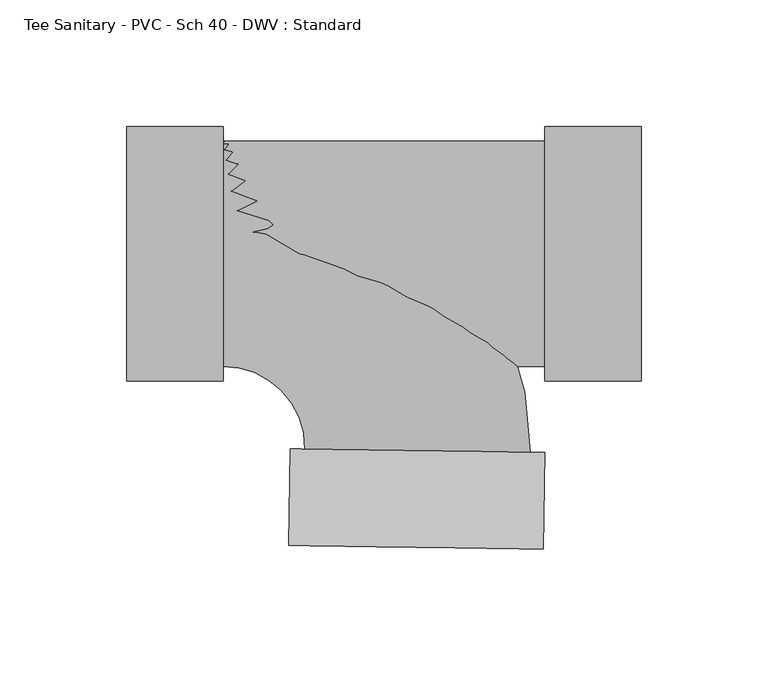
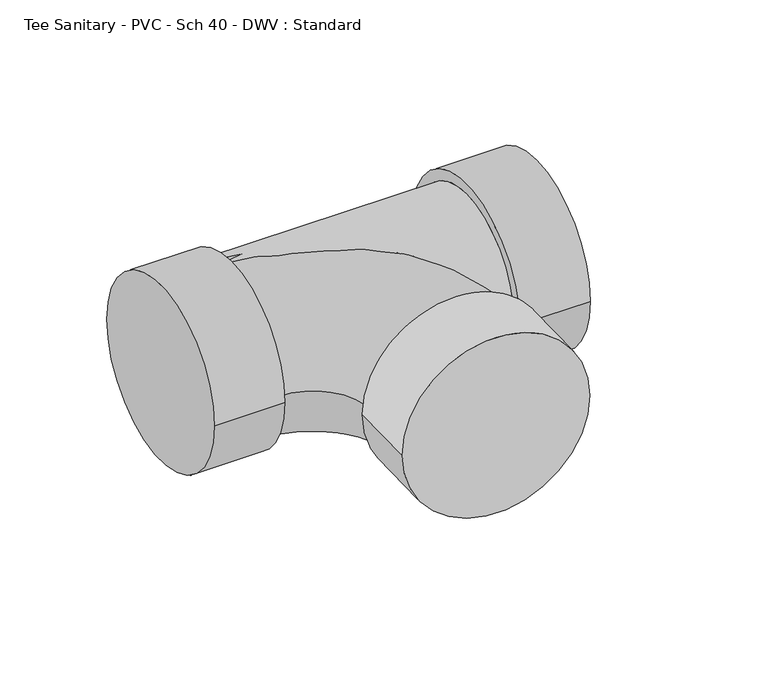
"""IFC4 building model written with IfcOpenShell, lengths in millimetres: pipe fitting geometry, Tee Sanitary - PVC - Sch 40 - DWV : Standard."""

from ifc_helpers import new_model, si_unit, point, frame, origin, place, context, project, spatial, circle_curve, ellipse_curve, trimmed, source, transform, mapped, element, save
from ifc_brep_helpers import plane_surface, cylinder_surface, revolved_surface, advanced_brep


def tee_sanitary_pvc_sch_40_dwv_standard_c52e2169(model_context):
    return source(origin(), model_context, "Body", "AdvancedBrep", [
        advanced_brep(
        [(-77.8002, -44.45, 0.0), (-77.8002, 44.45, 0.0), (-45.5428134, -77.1655737, 0.0), (43.3483451, -78.4193509, 0.0), (48.6270335, -116.5975945, 0.0), (-51.8961679, -115.1797516, 0.0), (49.1643666, -78.5013838, 0.0), (-51.3588349, -77.0835409, 0.0)],
        [
            (0, 1, circle_curve(frame((-77.8002, 0.0, 0.0), z_axis=(-1.0, 0.0, 0.0), x_axis=(0.0, 1.0, 0.0)), 44.45)),
            (1, 0, circle_curve(frame((-77.8002, 0.0, 0.0), z_axis=(-1.0, 0.0, 0.0), x_axis=(0.0, 1.0, 0.0)), 44.45)),
            (0, 2, circle_curve(frame((-77.8002, -76.7105951, 0.0), z_axis=(0.0, 0.0, -1.0), x_axis=(0.0, 1.0, 0.0)), 32.2605951)),
            (2, 3, circle_curve(frame((-1.0972341, -77.7924623, 0.0), z_axis=(0.014103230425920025, 0.9999005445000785, 0.0), x_axis=(0.9999005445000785, -0.014103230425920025, 0.0)), 44.45)),
            (3, 1, circle_curve(frame((-77.8002, -76.7105951, 0.0), z_axis=(0.0, 0.0, 1.0), x_axis=(0.0, 1.0, 0.0)), 121.1605951)),
            (3, 2, circle_curve(frame((-1.0972341, -77.7924623, 0.0), z_axis=(0.014103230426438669, 0.9999005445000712, 0.0), x_axis=(0.9999005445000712, -0.014103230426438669, 0.0)), 44.45)),
            (4, 5, circle_curve(frame((-1.6345672, -115.8886731, 0.0), z_axis=(-0.014103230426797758, -0.9999005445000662, 0.0), x_axis=(-0.9999005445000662, 0.014103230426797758, 0.0)), 50.2666)),
            (5, 4, circle_curve(frame((-1.6345672, -115.8886731, 0.0), z_axis=(-0.014103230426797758, -0.9999005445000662, 0.0), x_axis=(-0.9999005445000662, 0.014103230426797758, 0.0)), 50.2666)),
            (6, 7, circle_curve(frame((-1.0972341, -77.7924623, 0.0), z_axis=(0.014103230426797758, 0.9999005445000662, 0.0), x_axis=(-0.9999005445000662, 0.014103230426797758, 0.0)), 50.2666)),
            (7, 6, circle_curve(frame((-1.0972341, -77.7924623, 0.0), z_axis=(0.014103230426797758, 0.9999005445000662, 0.0), x_axis=(-0.9999005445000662, 0.014103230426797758, 0.0)), 50.2666)),
            (4, 6),
            (7, 5),
        ],
        [
            plane_surface(frame((-77.8002, 0.0, 0.0), z_axis=(-1.0, 0.0, 0.0), x_axis=(0.0, 0.0, 1.0))),
            revolved_surface(trimmed(ellipse_curve(frame((-77.8002, 0.0, 0.0), z_axis=(-1.0, 0.0, 0.0), x_axis=(0.0, 1.0, 0.0)), 44.45, 44.45), [point((-77.8002, -44.45, 0.0))], [point((-77.8002, 44.45, 0.0))], True, "CARTESIAN"), (-77.8002, -76.7105951, 0.0), (0.0, 0.0, -1.0)),
            revolved_surface(trimmed(ellipse_curve(frame((-77.8002, 0.0, 0.0), z_axis=(-1.0, 0.0, 0.0), x_axis=(0.0, 1.0, 0.0)), 44.45, 44.45), [point((-77.8002, 44.45, 0.0))], [point((-77.8002, -44.45, 0.0))], True, "CARTESIAN"), (-77.8002, -76.7105951, 0.0), (0.0, 0.0, -1.0)),
            plane_surface(frame((-1.6345672, -115.8886731, 0.0), z_axis=(-0.01410323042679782, -0.9999005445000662, 0.0), x_axis=(0.0, 0.0, 1.0))),
            plane_surface(frame((-1.0972341, -77.7924623, 0.0), z_axis=(0.014103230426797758, 0.9999005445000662, 0.0), x_axis=(0.0, 0.0, 1.0))),
            cylinder_surface(frame((-1.6345672, -115.8886731, 0.0), z_axis=(-0.014103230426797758, -0.9999005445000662, 0.0), x_axis=(-0.9999005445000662, 0.014103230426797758, 0.0)), 50.2666),
        ],
        [
            (0, [[1, 2]]),
            (1, [[-1, 3, 4, 5]]),
            (2, [[-2, -5, 6, -3]]),
            (3, [[7, 8]]),
            (4, [[9, 10], [-4, -6]]),
            (5, [[-7, 11, -10, 12]]),
            (5, [[-8, -12, -9, -11]]),
        ],
    ),
        advanced_brep(
        [(-77.8002, -44.45, 0.0), (49.1643666, -44.45, 0.0), (49.1643666, 44.45, 0.0), (-77.8002, 44.45, 0.0), (49.1643666, -50.2666, 0.0), (49.1643666, 50.2666, 0.0), (87.2643666, -50.2666, 0.0), (87.2643666, 50.2666, 0.0), (-115.9002, -50.2666, 0.0), (-115.9002, 50.2666, 0.0), (-77.8002, -50.2666, 0.0), (-77.8002, 50.2666, 0.0)],
        [
            (0, 1),
            (1, 2, circle_curve(frame((49.1643666, 0.0, 0.0), z_axis=(-1.0, 0.0, 0.0), x_axis=(0.0, 1.0, 0.0)), 44.45)),
            (2, 3),
            (3, 0, circle_curve(frame((-77.8002, 0.0, 0.0), z_axis=(1.0, 0.0, 0.0), x_axis=(0.0, 1.0, 0.0)), 44.45)),
            (0, 3, circle_curve(frame((-77.8002, 0.0, 0.0), z_axis=(1.0, 0.0, 0.0), x_axis=(0.0, 1.0, 0.0)), 44.45)),
            (2, 1, circle_curve(frame((49.1643666, 0.0, 0.0), z_axis=(-1.0, 0.0, 0.0), x_axis=(0.0, 1.0, 0.0)), 44.45)),
            (4, 5, circle_curve(frame((49.1643666, 0.0, 0.0), z_axis=(-1.0, 0.0, 0.0), x_axis=(0.0, 1.0, 0.0)), 50.2666)),
            (5, 4, circle_curve(frame((49.1643666, 0.0, 0.0), z_axis=(-1.0, 0.0, 0.0), x_axis=(0.0, 1.0, 0.0)), 50.2666)),
            (6, 7, circle_curve(frame((87.2643666, 0.0, 0.0), z_axis=(1.0, 0.0, 0.0), x_axis=(0.0, 1.0, 0.0)), 50.2666)),
            (7, 6, circle_curve(frame((87.2643666, 0.0, 0.0), z_axis=(1.0, 0.0, 0.0), x_axis=(0.0, 1.0, 0.0)), 50.2666)),
            (4, 6),
            (7, 5),
            (8, 9, circle_curve(frame((-115.9002, 0.0, 0.0), z_axis=(-1.0, 0.0, 0.0), x_axis=(0.0, 1.0, 0.0)), 50.2666)),
            (9, 8, circle_curve(frame((-115.9002, 0.0, 0.0), z_axis=(-1.0, 0.0, 0.0), x_axis=(0.0, 1.0, 0.0)), 50.2666)),
            (10, 11, circle_curve(frame((-77.8002, 0.0, 0.0), z_axis=(1.0, 0.0, 0.0), x_axis=(0.0, 1.0, 0.0)), 50.2666)),
            (11, 10, circle_curve(frame((-77.8002, 0.0, 0.0), z_axis=(1.0, 0.0, 0.0), x_axis=(0.0, 1.0, 0.0)), 50.2666)),
            (8, 10),
            (11, 9),
        ],
        [
            cylinder_surface(frame((-77.8002, 0.0, 0.0), z_axis=(-1.0, 0.0, 0.0), x_axis=(0.0, 1.0, 0.0)), 44.45),
            plane_surface(frame((49.1643666, 0.0, 0.0), z_axis=(-1.0, 0.0, 0.0), x_axis=(0.0, 0.0, 1.0))),
            plane_surface(frame((87.2643666, 0.0, 0.0), z_axis=(1.0, 0.0, 0.0), x_axis=(0.0, 0.0, 1.0))),
            cylinder_surface(frame((49.1643666, 0.0, 0.0), z_axis=(-1.0, 0.0, 0.0), x_axis=(0.0, 1.0, 0.0)), 50.2666),
            plane_surface(frame((-115.9002, 0.0, 0.0), z_axis=(-1.0, 0.0, 0.0), x_axis=(0.0, 0.0, 1.0))),
            plane_surface(frame((-77.8002, 0.0, 0.0), z_axis=(1.0, 0.0, 0.0), x_axis=(0.0, 0.0, 1.0))),
            cylinder_surface(frame((-115.9002, 0.0, 0.0), z_axis=(-1.0, 0.0, 0.0), x_axis=(0.0, 1.0, 0.0)), 50.2666),
        ],
        [
            (0, [[1, 2, 3, 4]]),
            (0, [[-1, 5, -3, 6]]),
            (1, [[7, 8], [-2, -6]]),
            (2, [[9, 10]]),
            (3, [[-7, 11, -10, 12]]),
            (3, [[-8, -12, -9, -11]]),
            (4, [[13, 14]]),
            (5, [[15, 16], [-4, -5]]),
            (6, [[-13, 17, -16, 18]]),
            (6, [[-14, -18, -15, -17]]),
        ],
    ),
    ])


if __name__ == "__main__":
    model = new_model("IFC4")
    model_context = context("Model", 3, world=origin())
    ifc_project = project(units=[si_unit("LENGTHUNIT", "METRE", prefix="MILLI")], contexts=[model_context])
    site = spatial("IfcSite", under=ifc_project)
    building = spatial("IfcBuilding", under=site)
    placement = place(None, origin())
    tee_sanitary_pvc_sch_40_dwv_standard_shape = tee_sanitary_pvc_sch_40_dwv_standard_c52e2169(model_context)
    element("IfcPipeFitting", 1, ObjectType="Tee Sanitary - PVC - Sch 40 - DWV : Standard", at=placement, inside=building, context=model_context, shape_type="MappedRepresentation", body=[
        mapped(tee_sanitary_pvc_sch_40_dwv_standard_shape, transform((0.0, 0.0, 0.0), x_axis=(1.0, 0.0, 0.0), y_axis=(0.0, 1.0, 0.0), z_axis=(0.0, 0.0, 1.0))),
    ])
    save(model, "model.ifc")
